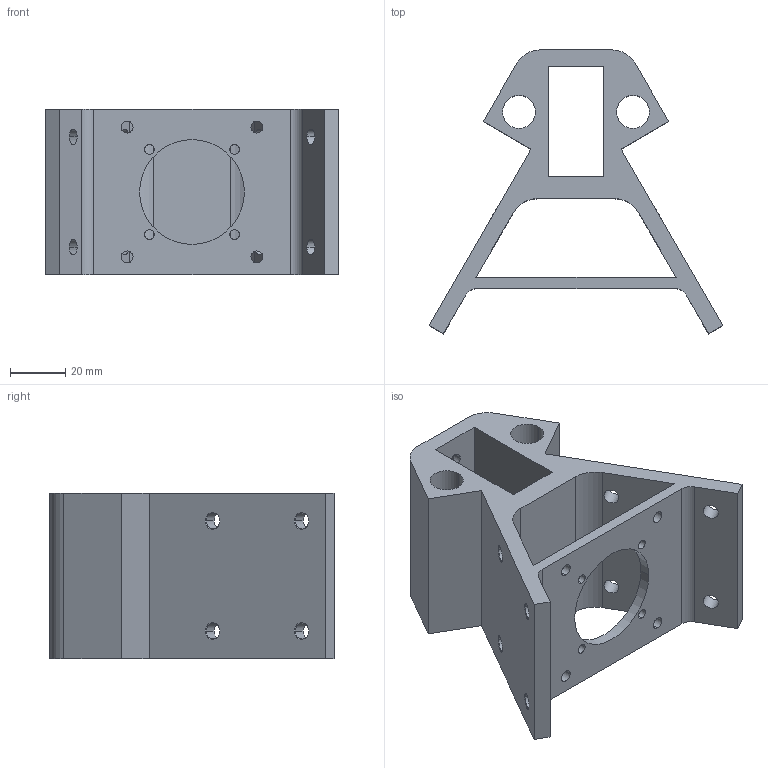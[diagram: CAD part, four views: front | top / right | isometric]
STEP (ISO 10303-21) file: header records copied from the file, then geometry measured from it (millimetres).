
FILE_DESCRIPTION (( 'STEP AP214' ), '1' );
FILE_NAME ('A100 Íàáîð êðåïëåíèé äëÿ äåëüòà êîðïóñà, îñíîâàíèå 60 ìì.STEP', '2025-03-28T13:24:28', ( '' ), ( '' ), 'SwSTEP 2.0', 'SolidWorks 2025', '' );
FILE_SCHEMA (( 'AUTOMOTIVE_DESIGN' ));
Length unit declared in the file: millimetre
Products named in the file (1): A100 Набор креплений для дельта корпуса, основание 60 мм
Bounding box: 106.66 x 103.07 x 60 mm (x, y, z)
Volume: 147589.5 mm3; surface area: 50939.2 mm2
Topology: 1 solids, 1 shells, 96 faces, 256 edges, 164 vertices
Faces by surface type: cylinder 52, plane 24, cone 20
Entity records: 3139 total; most frequent: DIRECTION 574, CARTESIAN_POINT 517, ORIENTED_EDGE 512, EDGE_CURVE 256, AXIS2_PLACEMENT_3D 221, VERTEX_POINT 164, EDGE_LOOP 144, VECTOR 132
